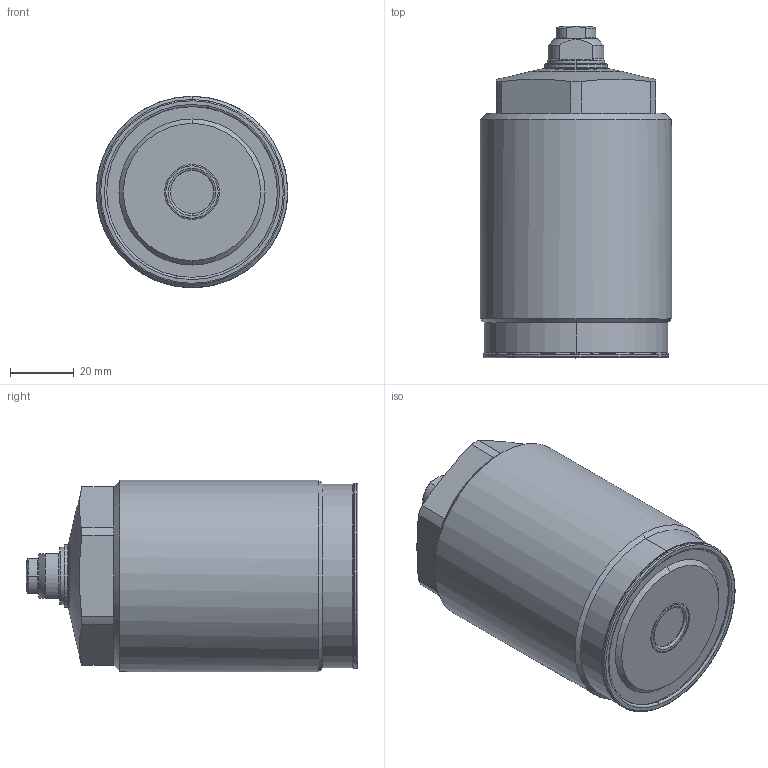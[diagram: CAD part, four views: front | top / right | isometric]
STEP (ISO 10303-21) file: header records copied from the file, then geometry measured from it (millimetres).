
FILE_DESCRIPTION(/* description */ (''),/* implementation_level */ '2;1');
FILE_NAME(/* name */ 'TNL60.stp',/* time_stamp */ '2022-11-17T13:34:47+08:00',/* author */ (''),/* organization */ (''),/* preprocessor_version */ 'ST-DEVELOPER v16.7',/* originating_system */ 'SIEMENS PLM Software NX 12.0',/* authorisation */ '');
FILE_SCHEMA (('AP203_CONFIGURATION_CONTROLLED_3D_DESIGN_OF_MECHANICAL_PARTS_AND_ASSEMBLIES_MIM_LF { 1 0 10303 403 2 1 2}'));
Length unit declared in the file: millimetre
Products named in the file (7): XLC-M10_Oring; XLC-M10_contactbolt; TNL60-04; TNL60-01; TNL60-02; TNL60-03; WNC6003-x_step
Assembly tree (6 placements, depth 3):
  WNC6003-x_step
    TNL60-02
    TNL60-03
      XLC-M10_contactbolt
      XLC-M10_Oring
    TNL60-01
    TNL60-04
Bounding box: 60 x 104 x 60 mm (x, y, z)
Volume: 242812.3 mm3; surface area: 25414.2 mm2
Topology: 5 solids, 5 shells, 147 faces, 316 edges, 188 vertices
Faces by surface type: torus 44, cylinder 44, plane 36, cone 21, sphere 2
Full cylindrical faces by diameter (mm): 60 x1
Entity records: 4935 total; most frequent: CARTESIAN_POINT 836, DIRECTION 805, ORIENTED_EDGE 624, AXIS2_PLACEMENT_3D 361, EDGE_CURVE 312, CIRCLE 207, VERTEX_POINT 188, EDGE_LOOP 166
